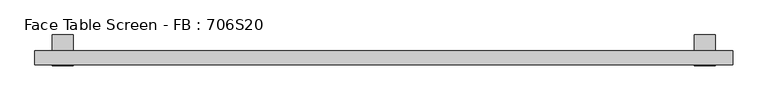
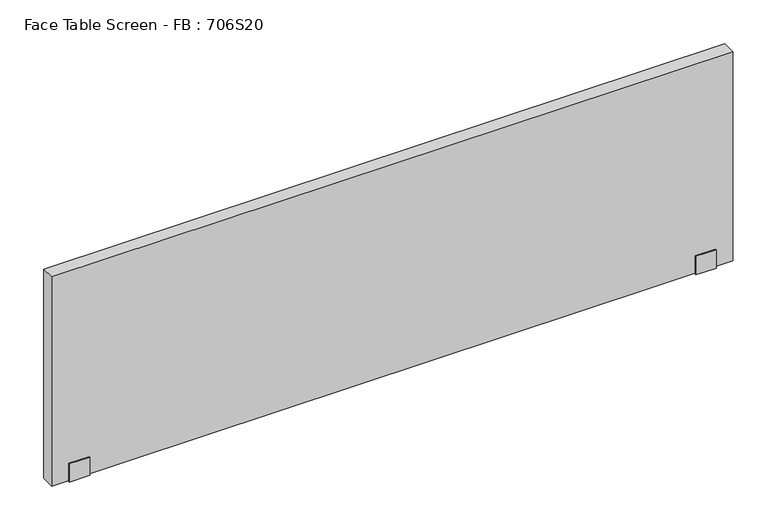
"""IFC4 building model written with IfcOpenShell, lengths in millimetres: furniture geometry, Face Table Screen - FB : 706S20."""

from ifc_helpers import new_model, si_unit, frame, origin, place, context, project, spatial, polyline, outline, extrude, source, transform, mapped, element, save


def face_table_screen_fb_706s20_56650287(model_context):
    return source(origin(), model_context, "Body", "SweptSolid", [
        extrude(outline(polyline([(-42.9999947, -256.0), (-42.9999997, -199.0433898), (-40.0, -199.0433898), (-40.0, -253.0), (0.0, -253.0), (0.0, -22.0), (45.0, -22.0), (45.0, -25.0433898), (3.0000062, -25.0433898), (2.9999947, -256.0), (-42.9999947, -256.0)])), frame((909.9863751, 0.0, 0.0), z_axis=(1.0, 0.0, 0.0), x_axis=(0.0, 1.0, 0.0)), (0.0, 0.0, 1.0), 60.0),
        extrude(outline(polyline([(-42.9999947, -256.0), (-42.9999997, -199.0433898), (-40.0, -199.0433898), (-40.0, -253.0), (0.0, -253.0), (0.0, -22.0), (45.0, -22.0), (45.0, -25.0433898), (3.0000062, -25.0433898), (2.9999947, -256.0), (-42.9999947, -256.0)])), frame((-930.0136249, 0.0, 0.0), z_axis=(1.0, 0.0, 0.0), x_axis=(0.0, 1.0, 0.0)), (0.0, 0.0, 1.0), 60.0),
        extrude(outline(polyline([(1019.9863751, -40.0), (-980.0136249, -40.0), (-980.0136249, 0.0), (1019.9863751, 0.0), (1019.9863751, -40.0)])), frame((0.0, 0.0, -253.0), z_axis=(0.0, 0.0, 1.0), x_axis=(1.0, 0.0, 0.0)), (0.0, 0.0, 1.0), 650.0),
    ])


if __name__ == "__main__":
    model = new_model("IFC4")
    model_context = context("Model", 3, world=origin())
    ifc_project = project(units=[si_unit("LENGTHUNIT", "METRE", prefix="MILLI")], contexts=[model_context])
    site = spatial("IfcSite", under=ifc_project)
    building = spatial("IfcBuilding", under=site)
    placement = place(None, origin())
    face_table_screen_fb_706s20_shape = face_table_screen_fb_706s20_56650287(model_context)
    element("IfcFurniture", 1, ObjectType="Face Table Screen - FB : 706S20", at=placement, inside=building, context=model_context, shape_type="MappedRepresentation", body=[
        mapped(face_table_screen_fb_706s20_shape, transform((0.0, 0.0, 0.0), x_axis=(1.0, 0.0, 0.0), y_axis=(0.0, 1.0, 0.0), z_axis=(0.0, 0.0, 1.0))),
    ])
    save(model, "model.ifc")
